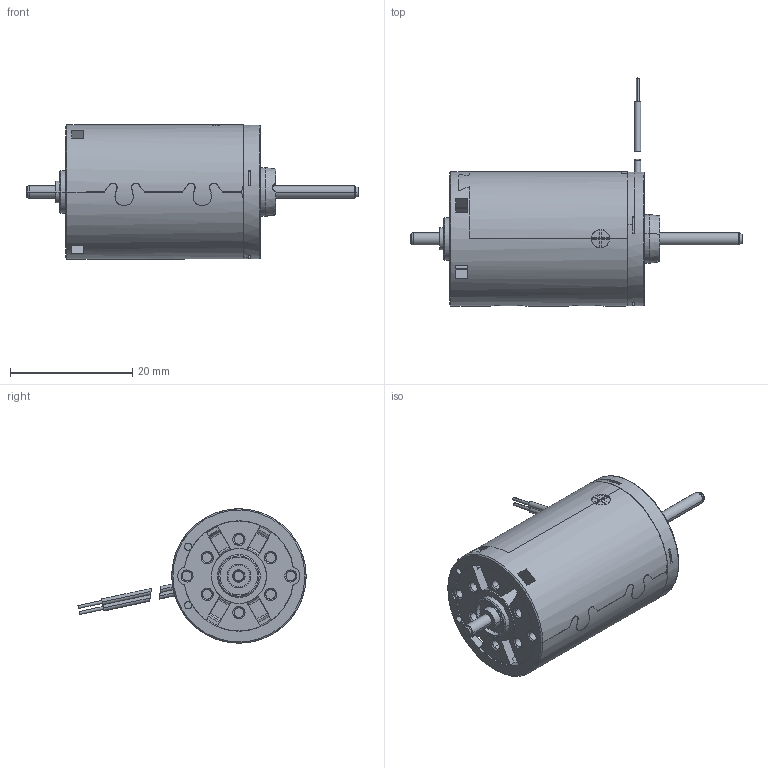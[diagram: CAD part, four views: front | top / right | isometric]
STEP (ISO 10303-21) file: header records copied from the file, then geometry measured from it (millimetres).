
FILE_DESCRIPTION((''),'2;1');
FILE_NAME('139848_AMAX22_GB_6W_SL_2WE_K','2016-10-14T',('mmagvisi'),(''),'CREO PARAMETRIC BY PTC INC, 2016050','CREO PARAMETRIC BY PTC INC, 2016050','');
FILE_SCHEMA(('CONFIG_CONTROL_DESIGN'));
Length unit declared in the file: millimetre
Products named in the file (1): 139848_AMAX22_GB_6W_SL_2WE_K
Bounding box: 54.4 x 37.37 x 22 mm (x, y, z)
Volume: 11963 mm3; surface area: 3885.6 mm2
Topology: 3 solids, 3 shells, 314 faces, 811 edges, 527 vertices
Faces by surface type: plane 160, cylinder 97, cone 44, torus 13
Entity records: 15207 total; most frequent: CARTESIAN_POINT 3822, ORIENTED_EDGE 1622, DIRECTION 1499, PRESENTATION_STYLE_ASSIGNMENT 974, STYLED_ITEM 814, CURVE_STYLE 811, EDGE_CURVE 811, AXIS2_PLACEMENT_3D 554
